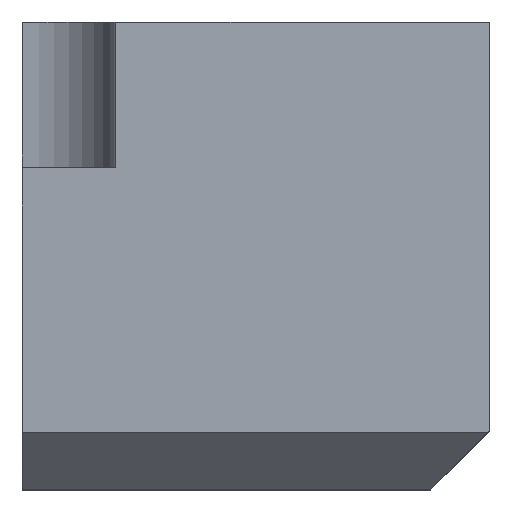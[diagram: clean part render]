
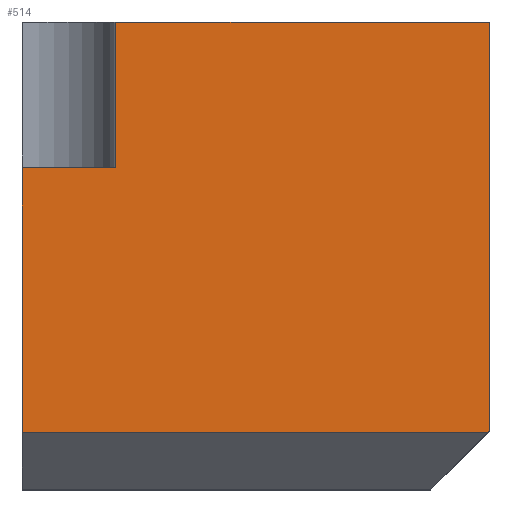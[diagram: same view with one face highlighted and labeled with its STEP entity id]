
A CAD part, top view. The second image highlights one B-rep face of the part: STEP entity #514.
In plain terms, the highlighted planar face has unit normal (0, 0, 1).
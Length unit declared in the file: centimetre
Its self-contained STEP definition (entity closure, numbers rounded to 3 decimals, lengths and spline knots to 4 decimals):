
#11 = AXIS2_PLACEMENT_3D ( 'NONE', #586, #97, #515 ) ;
#29 = DIRECTION ( 'NONE',  ( 0., 1., 0. ) ) ;
#30 = VECTOR ( 'NONE', #29, 100. ) ;
#34 = CARTESIAN_POINT ( 'NONE',  ( 0., 1000., 1000. ) ) ;
#50 = VERTEX_POINT ( 'NONE', #106 ) ;
#53 = LINE ( 'NONE', #69, #336 ) ;
#69 = CARTESIAN_POINT ( 'NONE',  ( 0., 1000., 1000. ) ) ;
#74 = LINE ( 'NONE', #34, #424 ) ;
#94 = DIRECTION ( 'NONE',  ( 0., -1., 0. ) ) ;
#97 = DIRECTION ( 'NONE',  ( 0., 0., 1. ) ) ;
#106 = CARTESIAN_POINT ( 'NONE',  ( 1000., 1000., 1000. ) ) ;
#115 = ORIENTED_EDGE ( 'NONE', *, *, #466, .T. ) ;
#159 = DIRECTION ( 'NONE',  ( -1., 0., 0. ) ) ;
#178 = EDGE_CURVE ( 'NONE', #470, #293, #357, .T. ) ;
#191 = CARTESIAN_POINT ( 'NONE',  ( 199.7746, 1000., 1000. ) ) ;
#222 = VECTOR ( 'NONE', #749, 100. ) ;
#225 = LINE ( 'NONE', #492, #520 ) ;
#293 = VERTEX_POINT ( 'NONE', #479 ) ;
#336 = VECTOR ( 'NONE', #674, 100. ) ;
#355 = CARTESIAN_POINT ( 'NONE',  ( 995.4128, 121.268, 1000. ) ) ;
#357 = LINE ( 'NONE', #494, #387 ) ;
#358 = VECTOR ( 'NONE', #159, 100. ) ;
#362 = CARTESIAN_POINT ( 'NONE',  ( 0., 121.268, 1000. ) ) ;
#367 = CARTESIAN_POINT ( 'NONE',  ( 1000., 121.268, 1000. ) ) ;
#368 = EDGE_LOOP ( 'NONE', ( #580, #370, #874, #683, #647, #115, #818 ) ) ;
#370 = ORIENTED_EDGE ( 'NONE', *, *, #450, .T. ) ;
#384 = FACE_OUTER_BOUND ( 'NONE', #368, .T. ) ;
#387 = VECTOR ( 'NONE', #778, 100. ) ;
#424 = VECTOR ( 'NONE', #94, 100. ) ;
#450 = EDGE_CURVE ( 'NONE', #884, #457, #567, .T. ) ;
#457 = VERTEX_POINT ( 'NONE', #846 ) ;
#466 = EDGE_CURVE ( 'NONE', #293, #50, #225, .T. ) ;
#470 = VERTEX_POINT ( 'NONE', #355 ) ;
#479 = CARTESIAN_POINT ( 'NONE',  ( 1000., 125.8551, 1000. ) ) ;
#492 = CARTESIAN_POINT ( 'NONE',  ( 1000., 1000., 1000. ) ) ;
#494 = CARTESIAN_POINT ( 'NONE',  ( 437.0724, -437.0724, 1000. ) ) ;
#499 = VERTEX_POINT ( 'NONE', #191 ) ;
#514 = ADVANCED_FACE ( 'NONE', ( #384 ), #582, .T. ) ;
#515 = DIRECTION ( 'NONE',  ( 1., 0., 0. ) ) ;
#520 = VECTOR ( 'NONE', #776, 100. ) ;
#537 = CARTESIAN_POINT ( 'NONE',  ( 199.7746, 687.6765, 1000. ) ) ;
#567 = LINE ( 'NONE', #773, #358 ) ;
#580 = ORIENTED_EDGE ( 'NONE', *, *, #858, .F. ) ;
#582 = PLANE ( 'NONE',  #11 ) ;
#584 = EDGE_CURVE ( 'NONE', #854, #470, #803, .T. ) ;
#586 = CARTESIAN_POINT ( 'NONE',  ( 0., 0., 1000. ) ) ;
#624 = EDGE_CURVE ( 'NONE', #50, #499, #53, .T. ) ;
#642 = CARTESIAN_POINT ( 'NONE',  ( 199.7746, 687.6765, 1000. ) ) ;
#647 = ORIENTED_EDGE ( 'NONE', *, *, #178, .T. ) ;
#674 = DIRECTION ( 'NONE',  ( -1., 0., 0. ) ) ;
#683 = ORIENTED_EDGE ( 'NONE', *, *, #584, .T. ) ;
#749 = DIRECTION ( 'NONE',  ( 1., 0., 0. ) ) ;
#773 = CARTESIAN_POINT ( 'NONE',  ( 0., 687.6765, 1000. ) ) ;
#776 = DIRECTION ( 'NONE',  ( 0., 1., 0. ) ) ;
#778 = DIRECTION ( 'NONE',  ( 0.707, 0.707, 0. ) ) ;
#791 = EDGE_CURVE ( 'NONE', #457, #854, #74, .T. ) ;
#803 = LINE ( 'NONE', #367, #222 ) ;
#818 = ORIENTED_EDGE ( 'NONE', *, *, #624, .T. ) ;
#846 = CARTESIAN_POINT ( 'NONE',  ( 0., 687.6765, 1000. ) ) ;
#851 = LINE ( 'NONE', #642, #30 ) ;
#854 = VERTEX_POINT ( 'NONE', #362 ) ;
#858 = EDGE_CURVE ( 'NONE', #884, #499, #851, .T. ) ;
#874 = ORIENTED_EDGE ( 'NONE', *, *, #791, .T. ) ;
#884 = VERTEX_POINT ( 'NONE', #537 ) ;
